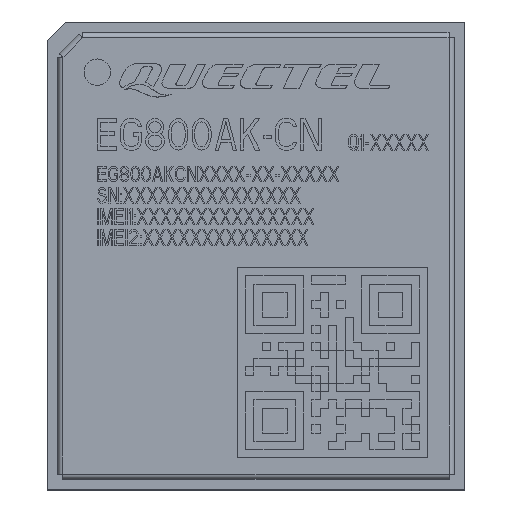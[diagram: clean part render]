
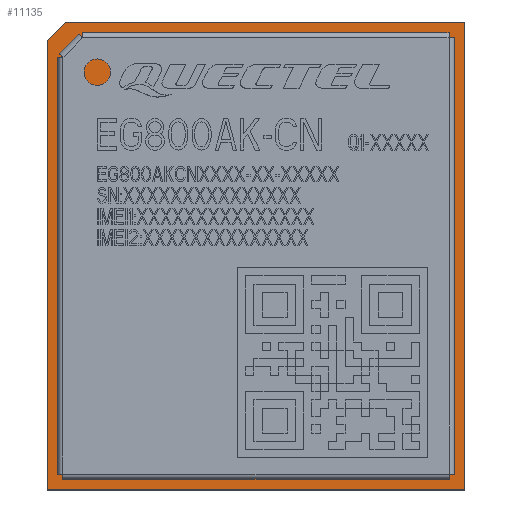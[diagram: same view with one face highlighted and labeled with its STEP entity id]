
A CAD part, top view. The second image highlights one B-rep face of the part: STEP entity #11135.
In plain terms, the highlighted planar face has unit normal (0, 0, 1).
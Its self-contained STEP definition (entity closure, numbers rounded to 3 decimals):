
#17=DIRECTION('',(0.,-1.,0.));
#18=VECTOR('',#17,17.);
#19=CARTESIAN_POINT('',(0.,17.,0.));
#20=LINE('',#19,#18);
#25=DIRECTION('',(-0.707,-0.707,0.));
#26=VECTOR('',#25,0.99);
#27=CARTESIAN_POINT('',(0.7,17.7,0.));
#28=LINE('',#27,#26);
#32=DIRECTION('',(-1.,0.,0.));
#33=VECTOR('',#32,15.1);
#34=CARTESIAN_POINT('',(15.8,17.7,0.));
#35=LINE('',#34,#33);
#39=DIRECTION('',(0.,1.,0.));
#40=VECTOR('',#39,17.7);
#41=CARTESIAN_POINT('',(15.8,0.,0.));
#42=LINE('',#41,#40);
#46=DIRECTION('',(1.,0.,0.));
#47=VECTOR('',#46,15.8);
#48=CARTESIAN_POINT('',(0.,0.,0.));
#49=LINE('',#48,#47);
#9342=CARTESIAN_POINT('',(0.,17.,0.));
#9343=CARTESIAN_POINT('',(0.,0.,0.));
#9344=VERTEX_POINT('',#9342);
#9345=VERTEX_POINT('',#9343);
#9346=CARTESIAN_POINT('',(15.8,0.,0.));
#9347=VERTEX_POINT('',#9346);
#9348=CARTESIAN_POINT('',(15.8,17.7,0.));
#9349=VERTEX_POINT('',#9348);
#9350=CARTESIAN_POINT('',(0.7,17.7,0.));
#9351=VERTEX_POINT('',#9350);
#11118=CARTESIAN_POINT('',(0.,0.,0.));
#11119=DIRECTION('',(0.,0.,1.));
#11120=DIRECTION('',(1.,0.,0.));
#11121=AXIS2_PLACEMENT_3D('',#11118,#11119,#11120);
#11122=PLANE('',#11121);
#11124=ORIENTED_EDGE('',*,*,#11123,.F.);
#11126=ORIENTED_EDGE('',*,*,#11125,.F.);
#11128=ORIENTED_EDGE('',*,*,#11127,.F.);
#11130=ORIENTED_EDGE('',*,*,#11129,.F.);
#11132=ORIENTED_EDGE('',*,*,#11131,.F.);
#11133=EDGE_LOOP('',(#11124,#11126,#11128,#11130,#11132));
#11134=FACE_OUTER_BOUND('',#11133,.F.);
#11123=EDGE_CURVE('',#9344,#9345,#20,.T.);
#11125=EDGE_CURVE('',#9351,#9344,#28,.T.);
#11127=EDGE_CURVE('',#9349,#9351,#35,.T.);
#11129=EDGE_CURVE('',#9347,#9349,#42,.T.);
#11131=EDGE_CURVE('',#9345,#9347,#49,.T.);
#11135=ADVANCED_FACE('',(#11134),#11122,.T.);
